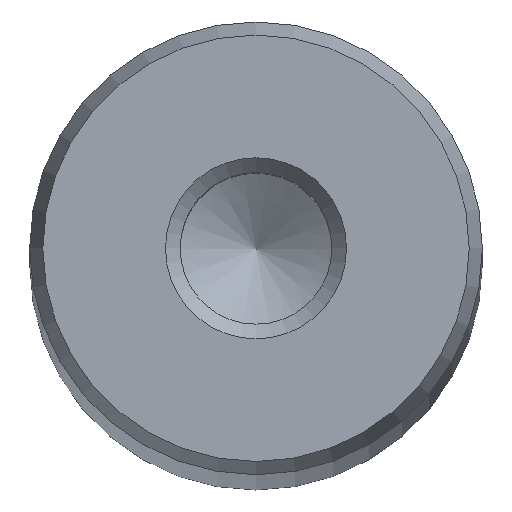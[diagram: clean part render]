
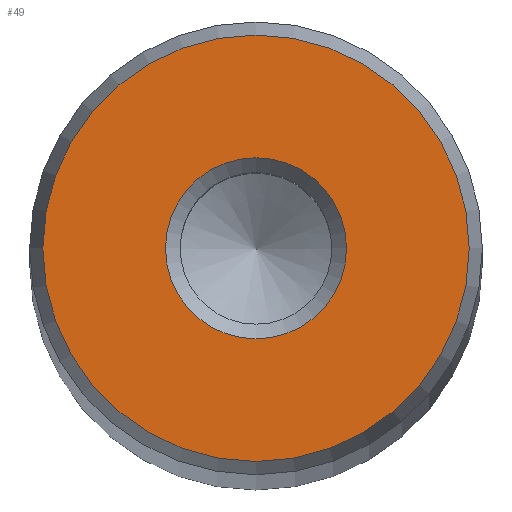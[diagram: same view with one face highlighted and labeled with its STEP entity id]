
A CAD part, top view. The second image highlights one B-rep face of the part: STEP entity #49.
In plain terms, the highlighted planar face has unit normal (0, 0, 1).
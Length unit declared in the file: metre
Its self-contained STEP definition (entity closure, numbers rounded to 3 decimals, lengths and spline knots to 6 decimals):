
#49 = ADVANCED_FACE( '', ( #104, #105 ), #106, .T. );
#104 = FACE_OUTER_BOUND( '', #163, .T. );
#105 = FACE_BOUND( '', #164, .T. );
#106 = PLANE( '', #165 );
#163 = EDGE_LOOP( '', ( #228 ) );
#164 = EDGE_LOOP( '', ( #229 ) );
#165 = AXIS2_PLACEMENT_3D( '', #230, #231, #232 );
#228 = ORIENTED_EDGE( '', *, *, #285, .T. );
#229 = ORIENTED_EDGE( '', *, *, #282, .T. );
#230 = CARTESIAN_POINT( '', ( 0., 0., 0.486 ) );
#231 = DIRECTION( '', ( 0., 0., 1. ) );
#232 = DIRECTION( '', ( 1., 0., 0. ) );
#282 = EDGE_CURVE( '', #315, #315, #316, .T. );
#285 = EDGE_CURVE( '', #320, #320, #321, .T. );
#315 = VERTEX_POINT( '', #352 );
#316 = CIRCLE( '', #353, 0.005 );
#320 = VERTEX_POINT( '', #357 );
#321 = CIRCLE( '', #358, 0.011772 );
#352 = CARTESIAN_POINT( '', ( 0.005, 0., 0.486 ) );
#353 = AXIS2_PLACEMENT_3D( '', #391, #392, #393 );
#357 = CARTESIAN_POINT( '', ( 0.011772, 0., 0.486 ) );
#358 = AXIS2_PLACEMENT_3D( '', #397, #398, #399 );
#391 = CARTESIAN_POINT( '', ( 0., 0., 0.486 ) );
#392 = DIRECTION( '', ( 0., 0., -1. ) );
#393 = DIRECTION( '', ( 1., 0., 0. ) );
#397 = CARTESIAN_POINT( '', ( 0., 0., 0.486 ) );
#398 = DIRECTION( '', ( 0., 0., 1. ) );
#399 = DIRECTION( '', ( 1., 0., 0. ) );
